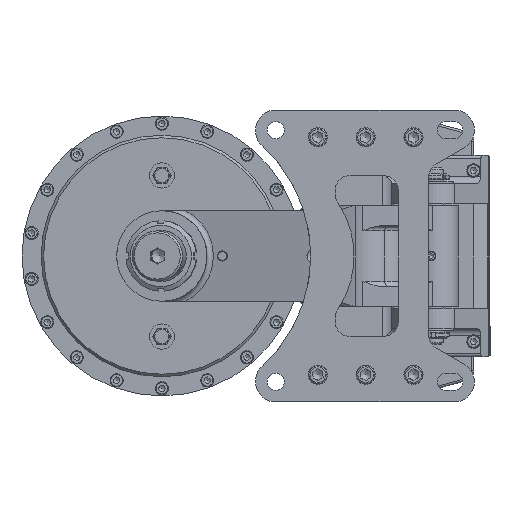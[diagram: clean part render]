
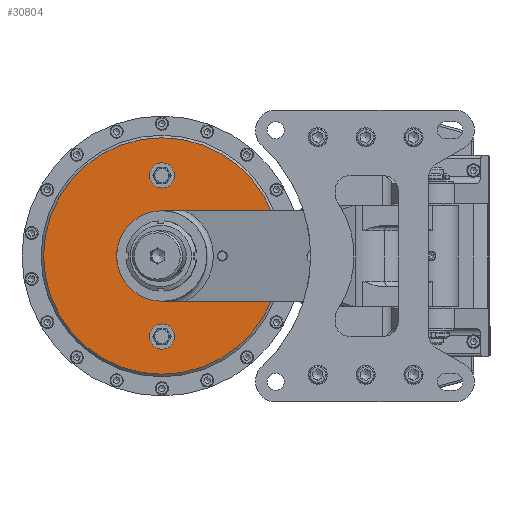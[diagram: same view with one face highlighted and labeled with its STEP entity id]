
A CAD part, left-side view. The second image highlights one B-rep face of the part: STEP entity #30804.
In plain terms, the highlighted planar face has unit normal (-1, 0, 0).
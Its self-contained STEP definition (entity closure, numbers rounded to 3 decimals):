
#941=FACE_BOUND('',#3914,.T.);
#942=FACE_BOUND('',#3915,.T.);
#943=FACE_BOUND('',#3916,.T.);
#1209=PLANE('',#32566);
#2220=FACE_OUTER_BOUND('',#3913,.T.);
#3913=EDGE_LOOP('',(#19797));
#3914=EDGE_LOOP('',(#19798,#19799));
#3915=EDGE_LOOP('',(#19800,#19801));
#3916=EDGE_LOOP('',(#19802,#19803));
#10272=CIRCLE('',#32567,117.5);
#10273=CIRCLE('',#32568,12.5);
#10274=CIRCLE('',#32569,12.5);
#10275=CIRCLE('',#32570,12.5);
#10276=CIRCLE('',#32571,12.5);
#10277=CIRCLE('',#32572,45.);
#10278=CIRCLE('',#32573,45.);
#12005=VERTEX_POINT('',#45229);
#12006=VERTEX_POINT('',#45231);
#12007=VERTEX_POINT('',#45232);
#12008=VERTEX_POINT('',#45235);
#12009=VERTEX_POINT('',#45236);
#12010=VERTEX_POINT('',#45239);
#12011=VERTEX_POINT('',#45240);
#15096=EDGE_CURVE('',#12005,#12005,#10272,.T.);
#15097=EDGE_CURVE('',#12006,#12007,#10273,.T.);
#15098=EDGE_CURVE('',#12007,#12006,#10274,.T.);
#15099=EDGE_CURVE('',#12008,#12009,#10275,.T.);
#15100=EDGE_CURVE('',#12009,#12008,#10276,.T.);
#15101=EDGE_CURVE('',#12010,#12011,#10277,.T.);
#15102=EDGE_CURVE('',#12011,#12010,#10278,.T.);
#19797=ORIENTED_EDGE('',*,*,#15096,.F.);
#19798=ORIENTED_EDGE('',*,*,#15097,.T.);
#19799=ORIENTED_EDGE('',*,*,#15098,.T.);
#19800=ORIENTED_EDGE('',*,*,#15099,.T.);
#19801=ORIENTED_EDGE('',*,*,#15100,.T.);
#19802=ORIENTED_EDGE('',*,*,#15101,.F.);
#19803=ORIENTED_EDGE('',*,*,#15102,.F.);
#30804=ADVANCED_FACE('',(#2220,#941,#942,#943),#1209,.T.);
#32566=AXIS2_PLACEMENT_3D('',#45228,#36147,#36148);
#32567=AXIS2_PLACEMENT_3D('',#45230,#36149,#36150);
#32568=AXIS2_PLACEMENT_3D('',#45233,#36151,#36152);
#32569=AXIS2_PLACEMENT_3D('',#45234,#36153,#36154);
#32570=AXIS2_PLACEMENT_3D('',#45237,#36155,#36156);
#32571=AXIS2_PLACEMENT_3D('',#45238,#36157,#36158);
#32572=AXIS2_PLACEMENT_3D('',#45241,#36159,#36160);
#32573=AXIS2_PLACEMENT_3D('',#45242,#36161,#36162);
#36147=DIRECTION('center_axis',(-1.,0.,0.));
#36148=DIRECTION('ref_axis',(0.,-1.,0.));
#36149=DIRECTION('center_axis',(1.,0.,0.));
#36150=DIRECTION('ref_axis',(0.,0.,
-1.));
#36151=DIRECTION('center_axis',(1.,0.,0.));
#36152=DIRECTION('ref_axis',(0.,-1.,0.));
#36153=DIRECTION('center_axis',(1.,0.,0.));
#36154=DIRECTION('ref_axis',(0.,-1.,0.));
#36155=DIRECTION('center_axis',(1.,0.,0.));
#36156=DIRECTION('ref_axis',(0.,1.,0.));
#36157=DIRECTION('center_axis',(1.,0.,0.));
#36158=DIRECTION('ref_axis',(0.,1.,0.));
#36159=DIRECTION('center_axis',(-1.,0.,0.));
#36160=DIRECTION('ref_axis',(0.,0.,
1.));
#36161=DIRECTION('center_axis',(-1.,0.,0.));
#36162=DIRECTION('ref_axis',(0.,0.,
1.));
#45228=CARTESIAN_POINT('Origin',(97.1,310.,223.));
#45229=CARTESIAN_POINT('',(97.1,310.,267.5));
#45230=CARTESIAN_POINT('Origin',(97.1,310.,150.));
#45231=CARTESIAN_POINT('',(97.1,297.5,230.));
#45232=CARTESIAN_POINT('',(97.1,322.5,230.));
#45233=CARTESIAN_POINT('Origin',(97.1,310.,230.));
#45234=CARTESIAN_POINT('Origin',(97.1,310.,230.));
#45235=CARTESIAN_POINT('',(97.1,322.5,70.));
#45236=CARTESIAN_POINT('',(97.1,297.5,70.));
#45237=CARTESIAN_POINT('Origin',(97.1,310.,70.));
#45238=CARTESIAN_POINT('Origin',(97.1,310.,70.));
#45239=CARTESIAN_POINT('',(97.1,310.,105.));
#45240=CARTESIAN_POINT('',(97.1,310.,195.));
#45241=CARTESIAN_POINT('Origin',(97.1,310.,150.));
#45242=CARTESIAN_POINT('Origin',(97.1,310.,150.));
